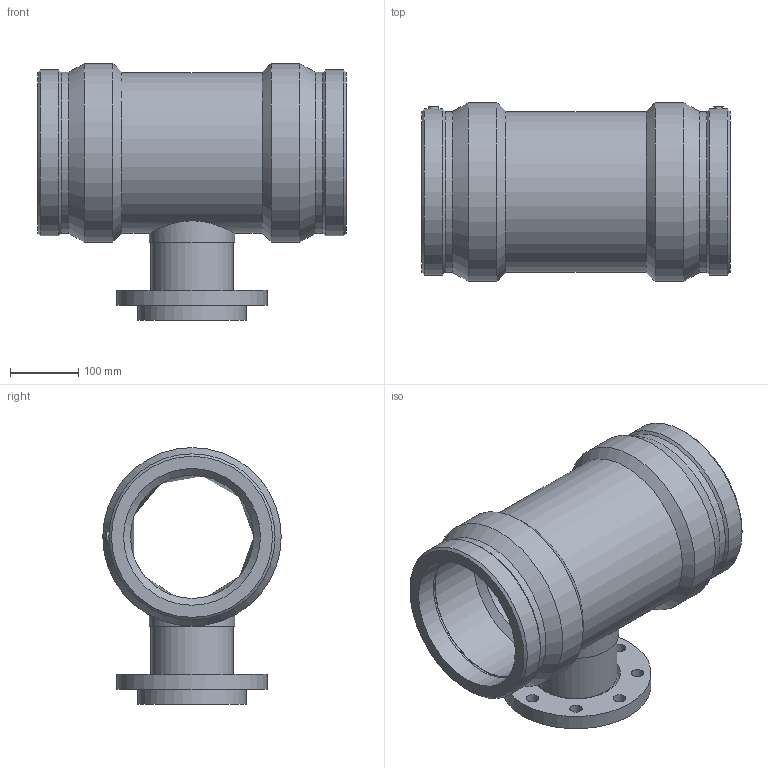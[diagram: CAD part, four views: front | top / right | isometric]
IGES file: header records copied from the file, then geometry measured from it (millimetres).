
Global section: file name: 499404200100.ipt; native system: Autodesk Inventor 2015; preprocessor: unknown; author: KIM; date: 20171106.094457; units: millimetre
Bounding box: 451 x 261 x 375.5 mm (x, y, z)
Volume: 8965908.6 mm3; surface area: 837619.5 mm2
Topology: 1 solids, 2 shells, 60 faces, 136 edges, 90 vertices
Faces by surface type: revolution 21, plane 14, cylinder 13, cone 11, bspline 1
Full cylindrical faces by diameter (mm): 4 x2, 120 x1, 125 x1, 158 x1, 220 x1, 234.9 x1, 235.448 x2, 242.73 x2, 261 x2
